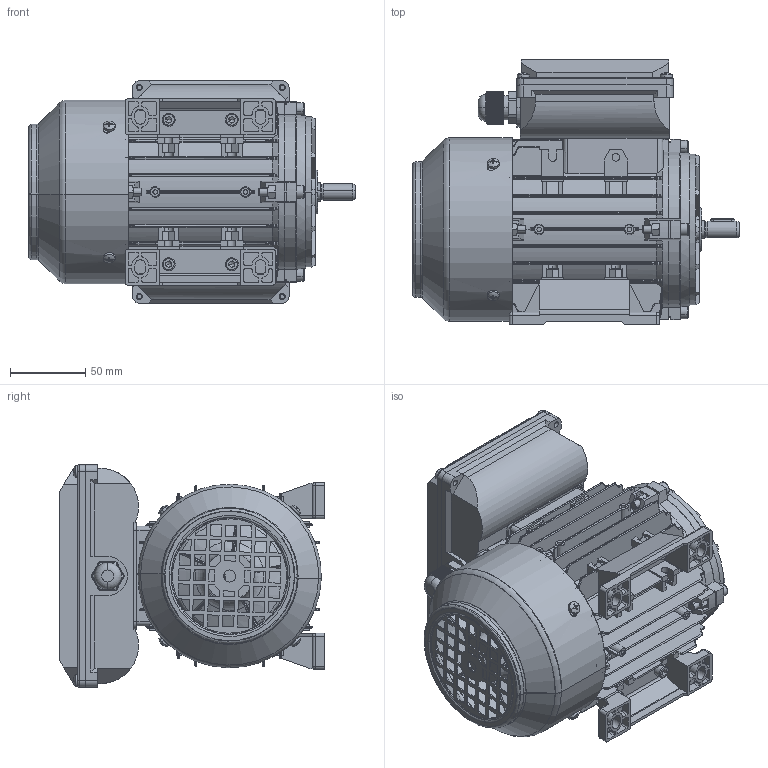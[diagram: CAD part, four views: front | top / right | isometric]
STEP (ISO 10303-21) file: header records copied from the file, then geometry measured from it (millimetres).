
FILE_DESCRIPTION (( 'STEP AP203' ), '1' );
FILE_NAME ('ML2 63 B3.STEP', '2024-01-20T01:37:14', ( '' ), ( '' ), 'SwSTEP 2.0', 'SolidWorks 2016', '' );
FILE_SCHEMA (( 'CONFIG_CONTROL_DESIGN' ));
Length unit declared in the file: millimetre
Products named in the file (17): TAN63 蛌粣; TAN63 菁褐; TAN63 綴裔; ML63-71臏諉盄碟軞傖.SLDPRT; ML63-71諉盄碟裔(臏); TAN63 B3裔; hexagon nuts grade c gb_GB_FASTENER_NUT_SNC1 M5-N; 堤盄蹟杶M16; ML2 63 B3; hexagon socket head cap screws gb_GB_FASTENER_SCREWS_HSHCS M5X16-N; TA63瑞欶; ML63-71諉盄碟釱(臏); plain parallel keys_GB_CONNECTING_PIECE_KEYS_CSK 4X16; hexagon socket head cap screws gb_GB_FASTENER_SCREWS_HSHCS M5X25-N; MS63 瑞珔; TAN63 儂褲; cross recessed thread forming screws gb_GB_CROSS_SCREWS_TYPE138 M4X10-N
Assembly tree (45 placements, depth 3):
  ML2 63 B3
    TAN63 儂褲
    TAN63 綴裔
    MS63 瑞珔
    TA63瑞欶
    TAN63 蛌粣
    cross recessed thread forming screws gb_GB_CROSS_SCREWS_TYPE138 M4X10-N  x4
    plain parallel keys_GB_CONNECTING_PIECE_KEYS_CSK 4X16
    hexagon nuts grade c gb_GB_FASTENER_NUT_SNC1 M5-N  x12
    hexagon socket head cap screws gb_GB_FASTENER_SCREWS_HSHCS M5X25-N  x8
    TAN63 菁褐  x2
    hexagon socket head cap screws gb_GB_FASTENER_SCREWS_HSHCS M5X16-N  x4
    TAN63 B3裔
    ML63-71臏諉盄碟軞傖.SLDPRT
      cross recessed thread forming screws gb_GB_CROSS_SCREWS_TYPE138 M4X10-N  x4
      堤盄蹟杶M16
      ML63-71諉盄碟裔(臏)
      ML63-71諉盄碟釱(臏)
Bounding box: 217 x 176 x 148 mm (x, y, z)
Volume: 590635.4 mm3; surface area: 446287.1 mm2
Topology: 44 solids, 44 shells, 4062 faces, 10601 edges, 6682 vertices
Faces by surface type: plane 2006, cylinder 1020, bspline 490, cone 355, torus 155, sphere 36
Entity records: 118612 total; most frequent: CARTESIAN_POINT 37909, ORIENTED_EDGE 17556, DIRECTION 14764, EDGE_CURVE 8778, VERTEX_POINT 5574, AXIS2_PLACEMENT_3D 5126, LINE 4512, VECTOR 4512
